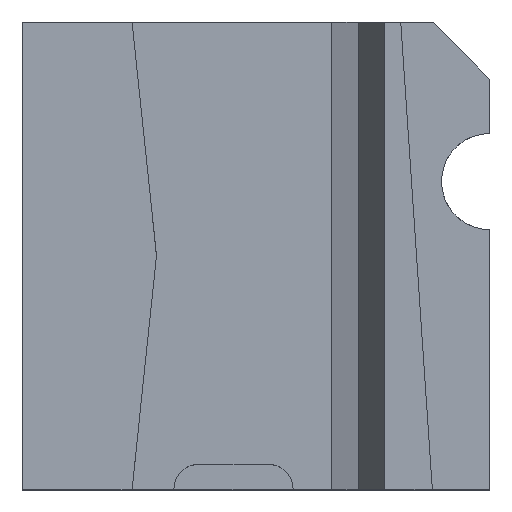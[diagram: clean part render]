
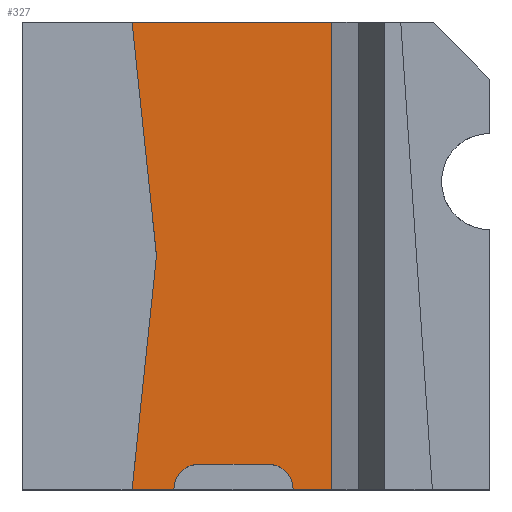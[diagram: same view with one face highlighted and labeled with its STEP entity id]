
A CAD part, top view. The second image highlights one B-rep face of the part: STEP entity #327.
In plain terms, the highlighted planar face has unit normal (0, 0, 1).
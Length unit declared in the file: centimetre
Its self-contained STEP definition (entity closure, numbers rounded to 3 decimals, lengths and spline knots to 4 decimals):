
#72 = CARTESIAN_POINT ( 'NONE',  ( 525.9809, 53.5526, 1000. ) ) ;
#74 = ORIENTED_EDGE ( 'NONE', *, *, #512, .T. ) ;
#90 = VECTOR ( 'NONE', #208, 100. ) ;
#114 = EDGE_CURVE ( 'NONE', #1124, #272, #337, .T. ) ;
#154 = CARTESIAN_POINT ( 'NONE',  ( 377.7046, 0., 1000. ) ) ;
#168 = CARTESIAN_POINT ( 'NONE',  ( 0., 0., 1000. ) ) ;
#197 = LINE ( 'NONE', #787, #852 ) ;
#208 = DIRECTION ( 'NONE',  ( -0.104, 0.995, 0. ) ) ;
#235 = DIRECTION ( 'NONE',  ( 0., 0., 1. ) ) ;
#242 = CARTESIAN_POINT ( 'NONE',  ( 324.152, 0., 1000. ) ) ;
#260 = DIRECTION ( 'NONE',  ( 1., 0., 0. ) ) ;
#272 = VERTEX_POINT ( 'NONE', #974 ) ;
#282 = LINE ( 'NONE', #700, #1105 ) ;
#289 = CARTESIAN_POINT ( 'NONE',  ( 579.5335, 0., 1000. ) ) ;
#290 = DIRECTION ( 'NONE',  ( 0., -1., 0. ) ) ;
#298 = CARTESIAN_POINT ( 'NONE',  ( 287.0738, 500., 1000. ) ) ;
#299 = DIRECTION ( 'NONE',  ( 0.104, 0.995, 0. ) ) ;
#313 = CARTESIAN_POINT ( 'NONE',  ( 234.7152, 0., 1000. ) ) ;
#323 = EDGE_CURVE ( 'NONE', #272, #1023, #888, .T. ) ;
#325 = DIRECTION ( 'NONE',  ( -1., 0., 0. ) ) ;
#327 = ADVANCED_FACE ( 'NONE', ( #391 ), #793, .T. ) ;
#329 = EDGE_CURVE ( 'NONE', #1249, #1015, #197, .T. ) ;
#337 = CIRCLE ( 'NONE', #1303, 53.5526 ) ;
#378 = DIRECTION ( 'NONE',  ( 1., 0., 0. ) ) ;
#382 = DIRECTION ( 'NONE',  ( 0., 0., 1. ) ) ;
#391 = FACE_OUTER_BOUND ( 'NONE', #551, .T. ) ;
#399 = DIRECTION ( 'NONE',  ( 1., 0., 0. ) ) ;
#408 = ORIENTED_EDGE ( 'NONE', *, *, #1140, .T. ) ;
#440 = CARTESIAN_POINT ( 'NONE',  ( 662.3542, 0., 1000. ) ) ;
#495 = DIRECTION ( 'NONE',  ( -1., 0., 0. ) ) ;
#499 = LINE ( 'NONE', #1309, #528 ) ;
#512 = EDGE_CURVE ( 'NONE', #1249, #1150, #721, .T. ) ;
#528 = VECTOR ( 'NONE', #399, 100. ) ;
#551 = EDGE_LOOP ( 'NONE', ( #1010, #724, #991, #844, #788, #74, #567, #1053, #408 ) ) ;
#567 = ORIENTED_EDGE ( 'NONE', *, *, #1003, .F. ) ;
#696 = VECTOR ( 'NONE', #378, 100. ) ;
#700 = CARTESIAN_POINT ( 'NONE',  ( 287.0738, 500., 1000. ) ) ;
#701 = DIRECTION ( 'NONE',  ( 1., 0., 0. ) ) ;
#721 = LINE ( 'NONE', #828, #1277 ) ;
#724 = ORIENTED_EDGE ( 'NONE', *, *, #323, .F. ) ;
#726 = EDGE_CURVE ( 'NONE', #1023, #861, #947, .T. ) ;
#769 = VERTEX_POINT ( 'NONE', #298 ) ;
#787 = CARTESIAN_POINT ( 'NONE',  ( 662.3542, 1000., 1000. ) ) ;
#788 = ORIENTED_EDGE ( 'NONE', *, *, #329, .F. ) ;
#793 = PLANE ( 'NONE',  #985 ) ;
#828 = CARTESIAN_POINT ( 'NONE',  ( 0., 1000., 1000. ) ) ;
#836 = LINE ( 'NONE', #1246, #90 ) ;
#844 = ORIENTED_EDGE ( 'NONE', *, *, #1111, .T. ) ;
#852 = VECTOR ( 'NONE', #290, 100. ) ;
#861 = VERTEX_POINT ( 'NONE', #242 ) ;
#871 = AXIS2_PLACEMENT_3D ( 'NONE', #154, #953, #260 ) ;
#888 = LINE ( 'NONE', #72, #941 ) ;
#939 = CARTESIAN_POINT ( 'NONE',  ( 0., 0., 1000. ) ) ;
#941 = VECTOR ( 'NONE', #495, 100. ) ;
#947 = CIRCLE ( 'NONE', #871, 53.5526 ) ;
#953 = DIRECTION ( 'NONE',  ( 0., 0., 1. ) ) ;
#974 = CARTESIAN_POINT ( 'NONE',  ( 525.9809, 53.5526, 1000. ) ) ;
#985 = AXIS2_PLACEMENT_3D ( 'NONE', #168, #382, #701 ) ;
#991 = ORIENTED_EDGE ( 'NONE', *, *, #114, .F. ) ;
#993 = VERTEX_POINT ( 'NONE', #313 ) ;
#1003 = EDGE_CURVE ( 'NONE', #769, #1150, #836, .T. ) ;
#1010 = ORIENTED_EDGE ( 'NONE', *, *, #726, .F. ) ;
#1015 = VERTEX_POINT ( 'NONE', #440 ) ;
#1023 = VERTEX_POINT ( 'NONE', #1243 ) ;
#1053 = ORIENTED_EDGE ( 'NONE', *, *, #1084, .F. ) ;
#1072 = DIRECTION ( 'NONE',  ( 1., 0., 0. ) ) ;
#1084 = EDGE_CURVE ( 'NONE', #993, #769, #282, .T. ) ;
#1091 = CARTESIAN_POINT ( 'NONE',  ( 234.7152, 1000., 1000. ) ) ;
#1105 = VECTOR ( 'NONE', #299, 100. ) ;
#1111 = EDGE_CURVE ( 'NONE', #1124, #1015, #499, .T. ) ;
#1117 = CARTESIAN_POINT ( 'NONE',  ( 525.9809, 0., 1000. ) ) ;
#1124 = VERTEX_POINT ( 'NONE', #289 ) ;
#1140 = EDGE_CURVE ( 'NONE', #993, #861, #1233, .T. ) ;
#1150 = VERTEX_POINT ( 'NONE', #1091 ) ;
#1233 = LINE ( 'NONE', #939, #696 ) ;
#1243 = CARTESIAN_POINT ( 'NONE',  ( 377.7046, 53.5526, 1000. ) ) ;
#1246 = CARTESIAN_POINT ( 'NONE',  ( 234.7152, 1000., 1000. ) ) ;
#1249 = VERTEX_POINT ( 'NONE', #1298 ) ;
#1277 = VECTOR ( 'NONE', #325, 100. ) ;
#1298 = CARTESIAN_POINT ( 'NONE',  ( 662.3542, 1000., 1000. ) ) ;
#1303 = AXIS2_PLACEMENT_3D ( 'NONE', #1117, #235, #1072 ) ;
#1309 = CARTESIAN_POINT ( 'NONE',  ( 0., 0., 1000. ) ) ;
